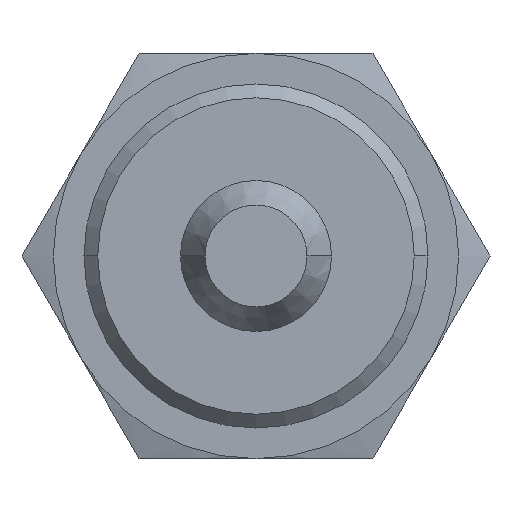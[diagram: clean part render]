
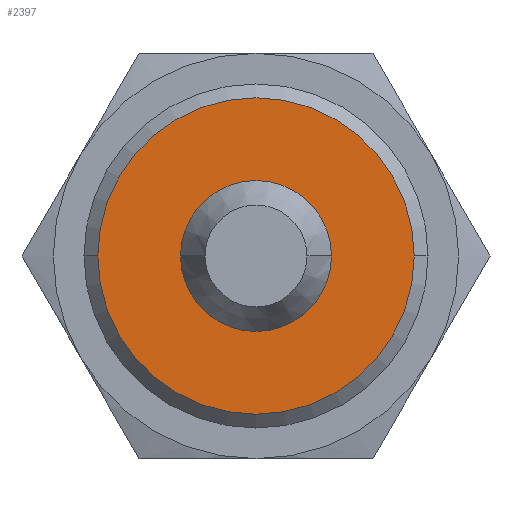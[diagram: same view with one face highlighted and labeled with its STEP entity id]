
A CAD part, left-side view. The second image highlights one B-rep face of the part: STEP entity #2397.
In plain terms, the highlighted planar face has unit normal (-1, 0, 0).
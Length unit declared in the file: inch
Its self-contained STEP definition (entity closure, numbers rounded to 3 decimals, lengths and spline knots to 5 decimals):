
#1741=CARTESIAN_POINT('',(-0.83182,-0.163,0.));
#1742=VERTEX_POINT('',#1741);
#1749=CARTESIAN_POINT('',(-0.83182,0.163,0.0));
#1750=VERTEX_POINT('',#1749);
#1751=CARTESIAN_POINT('',(-0.83182,0.,0.0));
#1752=DIRECTION('',(-1.0,0.0,0.0));
#1753=DIRECTION('',(0.0,-1.0,0.0));
#1754=AXIS2_PLACEMENT_3D('',#1751,#1752,#1753);
#1755=CIRCLE('',#1754,0.163);
#1756=EDGE_CURVE('',#1742,#1750,#1755,.T.);
#2169=CARTESIAN_POINT('',(-0.83182,-0.3415,0.0));
#2170=VERTEX_POINT('',#2169);
#2186=CARTESIAN_POINT('',(-0.83182,0.3415,0.));
#2187=VERTEX_POINT('',#2186);
#2194=CARTESIAN_POINT('',(-0.83182,0.,0.0));
#2195=DIRECTION('',(-1.0,0.0,0.0));
#2196=DIRECTION('',(0.0,-1.0,0.0));
#2197=AXIS2_PLACEMENT_3D('',#2194,#2195,#2196);
#2198=CIRCLE('',#2197,0.3415);
#2199=EDGE_CURVE('',#2170,#2187,#2198,.T.);
#2372=CARTESIAN_POINT('',(-0.83182,-0.17075,0.0));
#2373=DIRECTION('',(-1.0,0.0,0.0));
#2374=DIRECTION('',(0.0,0.0,-1.0));
#2375=AXIS2_PLACEMENT_3D('',#2372,#2373,#2374);
#2376=PLANE('',#2375);
#2377=ORIENTED_EDGE('',*,*,#2199,.T.);
#2378=CARTESIAN_POINT('',(-0.83182,0.,0.0));
#2379=DIRECTION('',(-1.0,0.0,0.0));
#2380=DIRECTION('',(0.0,-1.0,0.0));
#2381=AXIS2_PLACEMENT_3D('',#2378,#2379,#2380);
#2382=CIRCLE('',#2381,0.3415);
#2383=EDGE_CURVE('',#2187,#2170,#2382,.T.);
#2384=ORIENTED_EDGE('',*,*,#2383,.T.);
#2385=EDGE_LOOP('',(#2377,#2384));
#2386=FACE_OUTER_BOUND('',#2385,.T.);
#2387=CARTESIAN_POINT('',(-0.83182,0.,0.0));
#2388=DIRECTION('',(-1.0,0.0,0.0));
#2389=DIRECTION('',(0.0,-1.0,0.0));
#2390=AXIS2_PLACEMENT_3D('',#2387,#2388,#2389);
#2391=CIRCLE('',#2390,0.163);
#2392=EDGE_CURVE('',#1750,#1742,#2391,.T.);
#2393=ORIENTED_EDGE('',*,*,#2392,.F.);
#2394=ORIENTED_EDGE('',*,*,#1756,.F.);
#2395=EDGE_LOOP('',(#2393,#2394));
#2396=FACE_BOUND('',#2395,.T.);
#2397=ADVANCED_FACE('',(#2386,#2396),#2376,.T.);
